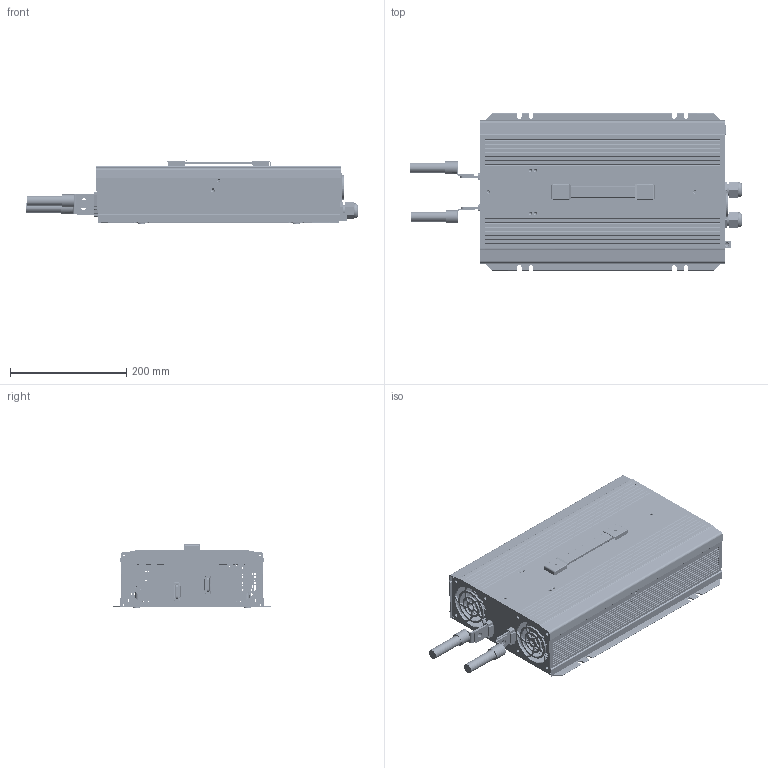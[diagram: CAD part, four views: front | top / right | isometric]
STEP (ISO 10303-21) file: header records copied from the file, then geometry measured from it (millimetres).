
FILE_DESCRIPTION(('Creo Elements/Direct Modeling STEP Export'),'2;1');
FILE_NAME('NTS-3200-EU.stp','2022-03-28T18:50:18',(''),(''),'PTC Creo Elements/Direct Modeling STEP processor for AP214 (Solid Model)','PTC Creo Elements/Direct Modeling 19.0E 27-Jun-2016 (C) Parametric Technology GmbH','');
FILE_SCHEMA(('AUTOMOTIVE_DESIGN { 1 0 10303 214 1 1 1 1 }'));
Length unit declared in the file: millimetre
Products named in the file (228): 零件9; 零件8; 零件7; 零件6; 零件5; 零件4; 零件3; 零件2; 零件12; 零件11; 零件10; 零件1; 电容; 欧插片; open_shell.1; guwei1.1; guwei1; _S___S_O_S_JL; _S_4_X2_0192_X0__S__S_6_S___S_U; _S_4_X2_0192_X0__S_; TO220.21; TO220.9; TO220.8; TO220.7; TO220.6; TO220.5; TO220.4; TO220.3; TO220.20; TO220.2; TO220.19; TO220.18; TO220.17; TO220.16; TO220.15; TO220.14; TO220.13; TO220.12; TO220.11; TO220.10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
Assembly tree (130 placements, depth 2):
  零件9
  零件8
  零件7
  零件6
  零件5
    零件5
Bounding box: 570.16 x 270 x 108.65 mm (x, y, z)
Volume: 2381046.4 mm3; surface area: 2044526.1 mm2
Topology: 149 solids, 155 shells, 8467 faces, 22937 edges, 14928 vertices
Faces by surface type: plane 4950, cylinder 2815, cone 291, torus 215, bspline 101, sphere 94, extrusion 1
Entity records: 215886 total; most frequent: CARTESIAN_POINT 44877, ORIENTED_EDGE 33666, DIRECTION 30968, EDGE_CURVE 16838, VECTOR 11618, LINE 11617, VERTEX_POINT 10981, AXIS2_PLACEMENT_3D 9675
